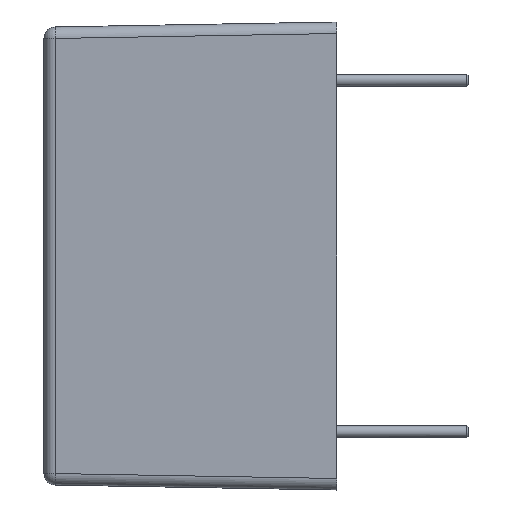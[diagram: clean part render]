
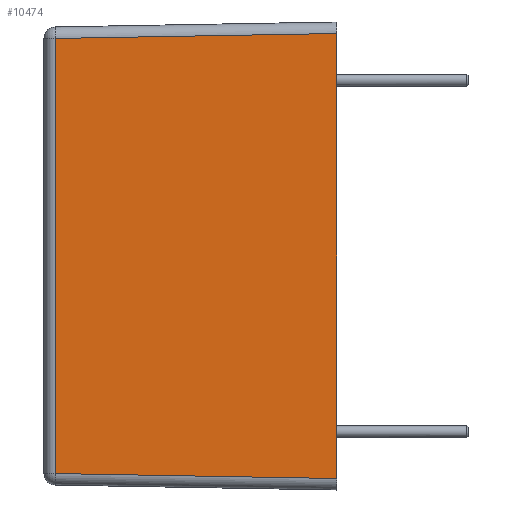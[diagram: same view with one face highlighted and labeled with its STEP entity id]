
A CAD part, left-side view. The second image highlights one B-rep face of the part: STEP entity #10474.
In plain terms, the highlighted planar face has unit normal (-1, 0.018, 0) as drawn and (-1, -0.017, 0) by its records, which use the part's own axes.
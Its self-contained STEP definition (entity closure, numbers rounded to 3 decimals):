
#532 = VECTOR ( 'NONE', #8071, 1000. ) ;
#625 = DIRECTION ( 'NONE',  ( 0., 0., 1. ) ) ;
#894 = CARTESIAN_POINT ( 'NONE',  ( -15.687, -12.209, -9.437 ) ) ;
#1093 = CARTESIAN_POINT ( 'NONE',  ( -15.687, -12.209, 9.437 ) ) ;
#1630 = VECTOR ( 'NONE', #12383, 1000. ) ;
#3607 = LINE ( 'NONE', #10843, #9200 ) ;
#4366 = CARTESIAN_POINT ( 'NONE',  ( -15.894, -0.345, 9.644 ) ) ;
#5141 = VERTEX_POINT ( 'NONE', #10773 ) ;
#5574 = EDGE_CURVE ( 'NONE', #5141, #13616, #6527, .T. ) ;
#5648 = DIRECTION ( 'NONE',  ( 0., 0., 1. ) ) ;
#6127 = LINE ( 'NONE', #10912, #1630 ) ;
#6527 = LINE ( 'NONE', #19239, #10797 ) ;
#7713 = ORIENTED_EDGE ( 'NONE', *, *, #5574, .F. ) ;
#8071 = DIRECTION ( 'NONE',  ( -0.017, 1., 0.017 ) ) ;
#8396 = EDGE_LOOP ( 'NONE', ( #13305, #8864, #18899, #7713 ) ) ;
#8828 = PLANE ( 'NONE',  #13972 ) ;
#8864 = ORIENTED_EDGE ( 'NONE', *, *, #15706, .T. ) ;
#9200 = VECTOR ( 'NONE', #625, 1000. ) ;
#10474 = ADVANCED_FACE ( 'NONE', ( #20207 ), #8828, .T. ) ;
#10773 = CARTESIAN_POINT ( 'NONE',  ( -15.9, 0., -9.65 ) ) ;
#10797 = VECTOR ( 'NONE', #5648, 1000. ) ;
#10843 = CARTESIAN_POINT ( 'NONE',  ( -15.687, -12.209, 9.428 ) ) ;
#10912 = CARTESIAN_POINT ( 'NONE',  ( -15.9, 0.009, -9.65 ) ) ;
#11159 = VERTEX_POINT ( 'NONE', #894 ) ;
#11715 = VERTEX_POINT ( 'NONE', #1093 ) ;
#11718 = EDGE_CURVE ( 'NONE', #11715, #13616, #20789, .T. ) ;
#11999 = EDGE_CURVE ( 'NONE', #5141, #11159, #6127, .T. ) ;
#12383 = DIRECTION ( 'NONE',  ( 0.017, -1., 0.017 ) ) ;
#13305 = ORIENTED_EDGE ( 'NONE', *, *, #11999, .T. ) ;
#13616 = VERTEX_POINT ( 'NONE', #14029 ) ;
#13972 = AXIS2_PLACEMENT_3D ( 'NONE', #20747, #17549, #17403 ) ;
#14029 = CARTESIAN_POINT ( 'NONE',  ( -15.9, 0., 9.65 ) ) ;
#15706 = EDGE_CURVE ( 'NONE', #11159, #11715, #3607, .T. ) ;
#17403 = DIRECTION ( 'NONE',  ( 0.017, -1., 0. ) ) ;
#17549 = DIRECTION ( 'NONE',  ( -1., -0.017, 0. ) ) ;
#18899 = ORIENTED_EDGE ( 'NONE', *, *, #11718, .T. ) ;
#19239 = CARTESIAN_POINT ( 'NONE',  ( -15.9, 0., -10.15 ) ) ;
#20207 = FACE_OUTER_BOUND ( 'NONE', #8396, .T. ) ;
#20747 = CARTESIAN_POINT ( 'NONE',  ( -15.9, 0., -10.15 ) ) ;
#20789 = LINE ( 'NONE', #4366, #532 ) ;
